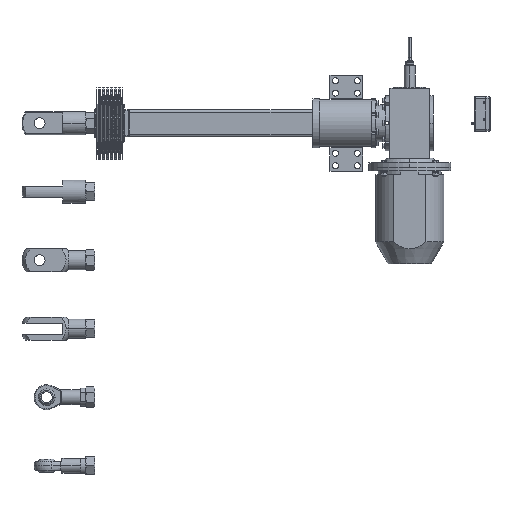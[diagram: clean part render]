
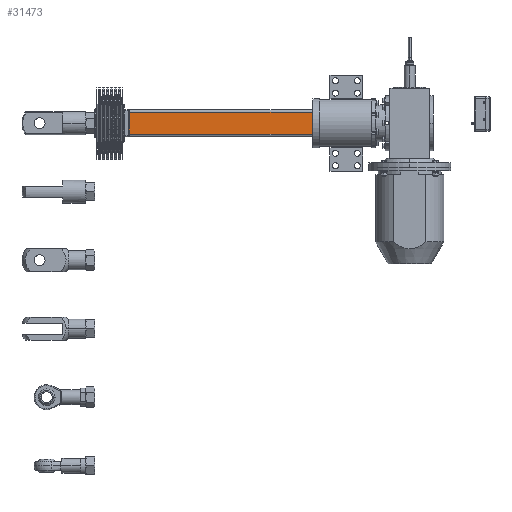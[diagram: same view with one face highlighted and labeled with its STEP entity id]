
A CAD part, front view. The second image highlights one B-rep face of the part: STEP entity #31473.
In plain terms, the highlighted planar face has unit normal (0, -1, 0).
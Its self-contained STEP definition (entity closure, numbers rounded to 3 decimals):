
#1150 = AXIS2_PLACEMENT_3D ( 'NONE', #44838, #44851, #44852 ) ;
#5116 = ORIENTED_EDGE ( 'NONE', *, *, #6635, .F. ) ;
#5117 = ORIENTED_EDGE ( 'NONE', *, *, #6671, .F. ) ;
#5118 = ORIENTED_EDGE ( 'NONE', *, *, #6670, .T. ) ;
#5119 = ORIENTED_EDGE ( 'NONE', *, *, #6669, .T. ) ;
#6635 = EDGE_CURVE ( 'NONE', #25935, #25915, #18606, .T. ) ;
#6669 = EDGE_CURVE ( 'NONE', #25935, #25853, #33507, .T. ) ;
#6670 = EDGE_CURVE ( 'NONE', #25853, #25891, #33502, .T. ) ;
#6671 = EDGE_CURVE ( 'NONE', #25915, #25891, #33512, .T. ) ;
#16140 = CARTESIAN_POINT ( 'NONE',  ( 680., -50., 40. ) ) ;
#16141 = DIRECTION ( 'NONE',  ( 0., 0., -1. ) ) ;
#16223 = DIRECTION ( 'NONE',  ( -1., 0., 0. ) ) ;
#16228 = CARTESIAN_POINT ( 'NONE',  ( 680., -50., 40. ) ) ;
#16230 = CARTESIAN_POINT ( 'NONE',  ( 2., -50., 40. ) ) ;
#16235 = DIRECTION ( 'NONE',  ( 0., 0., -1. ) ) ;
#16236 = CARTESIAN_POINT ( 'NONE',  ( 680., -50., -40. ) ) ;
#16238 = DIRECTION ( 'NONE',  ( -1., 0., 0. ) ) ;
#18606 = LINE ( 'NONE', #16140, #18608 ) ;
#18608 = VECTOR ( 'NONE', #16141, 1000. ) ;
#19725 = CARTESIAN_POINT ( 'NONE',  ( 2., -50., -40. ) ) ;
#19737 = CARTESIAN_POINT ( 'NONE',  ( 680., -50., -40. ) ) ;
#19747 = CARTESIAN_POINT ( 'NONE',  ( 680., -50., 40. ) ) ;
#25853 = VERTEX_POINT ( 'NONE', #30854 ) ;
#25891 = VERTEX_POINT ( 'NONE', #19725 ) ;
#25915 = VERTEX_POINT ( 'NONE', #19737 ) ;
#25935 = VERTEX_POINT ( 'NONE', #19747 ) ;
#28171 = FACE_OUTER_BOUND ( 'NONE', #42883, .T. ) ;
#30854 = CARTESIAN_POINT ( 'NONE',  ( 2., -50., 40. ) ) ;
#31473 = ADVANCED_FACE ( 'NONE', ( #28171 ), #44848, .F. ) ;
#33502 = LINE ( 'NONE', #16230, #33514 ) ;
#33507 = LINE ( 'NONE', #16228, #33510 ) ;
#33510 = VECTOR ( 'NONE', #16223, 1000. ) ;
#33512 = LINE ( 'NONE', #16236, #33518 ) ;
#33514 = VECTOR ( 'NONE', #16235, 1000. ) ;
#33518 = VECTOR ( 'NONE', #16238, 1000. ) ;
#42883 = EDGE_LOOP ( 'NONE', ( #5119, #5118, #5117, #5116 ) ) ;
#44838 = CARTESIAN_POINT ( 'NONE',  ( 680., -50., 40. ) ) ;
#44848 = PLANE ( 'NONE',  #1150 ) ;
#44851 = DIRECTION ( 'NONE',  ( 0., 1., 0. ) ) ;
#44852 = DIRECTION ( 'NONE',  ( 0., 0., 1. ) ) ;
